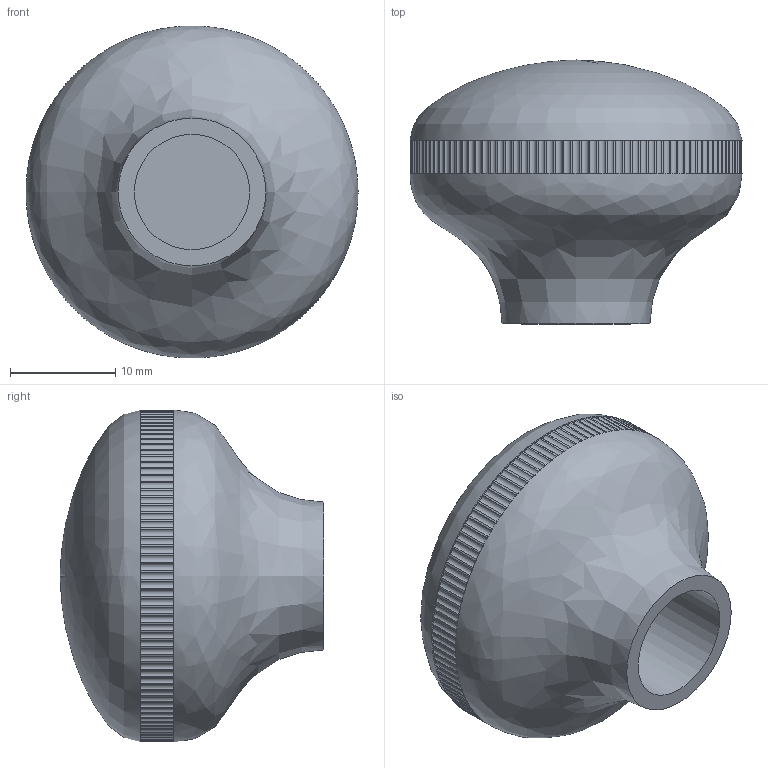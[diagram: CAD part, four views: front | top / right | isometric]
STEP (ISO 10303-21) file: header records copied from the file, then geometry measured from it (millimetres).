
FILE_DESCRIPTION(/* description */ (''),/* implementation_level */ '2;1');
FILE_NAME(/* name */ '/Users/katiekatie/Desktop/Fusion STEP Files/Willys Jeep Knob.step',/* time_stamp */ '2020-09-29T14:27:07-06:00',/* author */ (''),/* organization */ (''),/* preprocessor_version */ 'ST-DEVELOPER v18.1',/* originating_system */ 'Autodesk Translation Framework v9.3.0.1241',/* authorisation */ '');
FILE_SCHEMA (('AUTOMOTIVE_DESIGN { 1 0 10303 214 3 1 1 }'));
Length unit declared in the file: millimetre
Products named in the file (1): Jeep Knob
Bounding box: 31.52 x 25.06 x 31.52 mm (x, y, z)
Volume: 10559 mm3; surface area: 3320.5 mm2
Topology: 1 solids, 1 shells, 485 faces, 969 edges, 486 vertices
Faces by surface type: plane 242, cylinder 241, bspline 2
Full cylindrical faces by diameter (mm): 10.95 x1
Entity records: 12548 total; most frequent: DIRECTION 2659, CARTESIAN_POINT 2106, ORIENTED_EDGE 1936, AXIS2_PLACEMENT_3D 1209, EDGE_CURVE 968, CIRCLE 725, EDGE_LOOP 486, VERTEX_POINT 486
